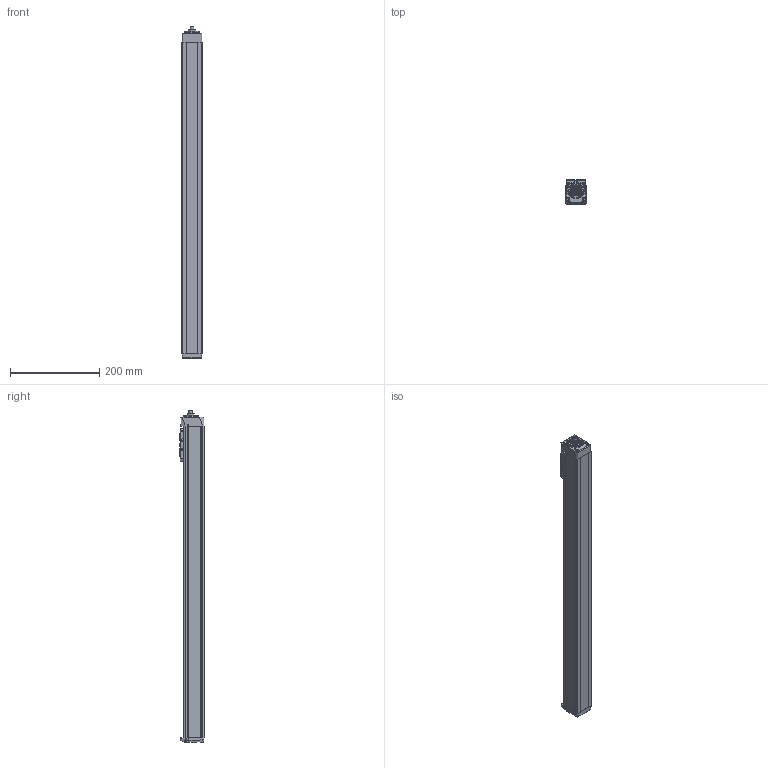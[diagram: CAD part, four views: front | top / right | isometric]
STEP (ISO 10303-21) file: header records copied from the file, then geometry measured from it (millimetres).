
FILE_DESCRIPTION(/* description */ ('STEP AP214'),/* implementation_level */ '2;1');
FILE_NAME(/* name */ 'MGBS 45 1003 600(0)',/* time_stamp */ '2023-04-12T11:10:44+02:00',/* author */ ('License CC BY-ND 4.0'),/* organization */ ('CADENAS'),/* preprocessor_version */ 'ST-DEVELOPER v19.3',/* originating_system */ 'PARTsolutions',/* authorisation */ ' ');
FILE_SCHEMA (('AUTOMOTIVE_DESIGN {1 0 10303 214 3 1 1}'));
Length unit declared in the file: millimetre
Products named in the file (6): MGBS 45 1003 600(0); MGBS 45 600_protection_strip; MGBS 45_carriage; MGBS 45_end_block; MGBS 45 600_profile; MGBS 45_drive_block
Assembly tree (5 placements, depth 2):
  MGBS 45 1003 600(0)
    MGBS 45 600_protection_strip
    MGBS 45_carriage
    MGBS 45_end_block
    MGBS 45 600_profile
    MGBS 45_drive_block
Bounding box: 45 x 54 x 743 mm (x, y, z)
Volume: 1422845.9 mm3; surface area: 229283 mm2
Topology: 5 solids, 5 shells, 655 faces, 1721 edges, 1113 vertices
Faces by surface type: plane 312, cylinder 156, cone 94, bspline 64, torus 27, sphere 2
Full cylindrical faces by diameter (mm): 1 x1, 1.755 x4, 2.459 x6, 2.46 x2, 2.5 x8, 3 x4, 3.242 x8, 3.8 x6, 4 x2, 4.5 x4, 5 x2, 5.5 x4, 6.5 x4, 8 x1, 11 x2, 16 x1, 24.5 x1, 34 x2, 38.2 x1
Entity records: 23967 total; most frequent: CARTESIAN_POINT 4130, DIRECTION 3272, ORIENTED_EDGE 3064, EDGE_CURVE 1532, AXIS2_PLACEMENT_3D 1183, VERTEX_POINT 1095, LINE 906, VECTOR 906
